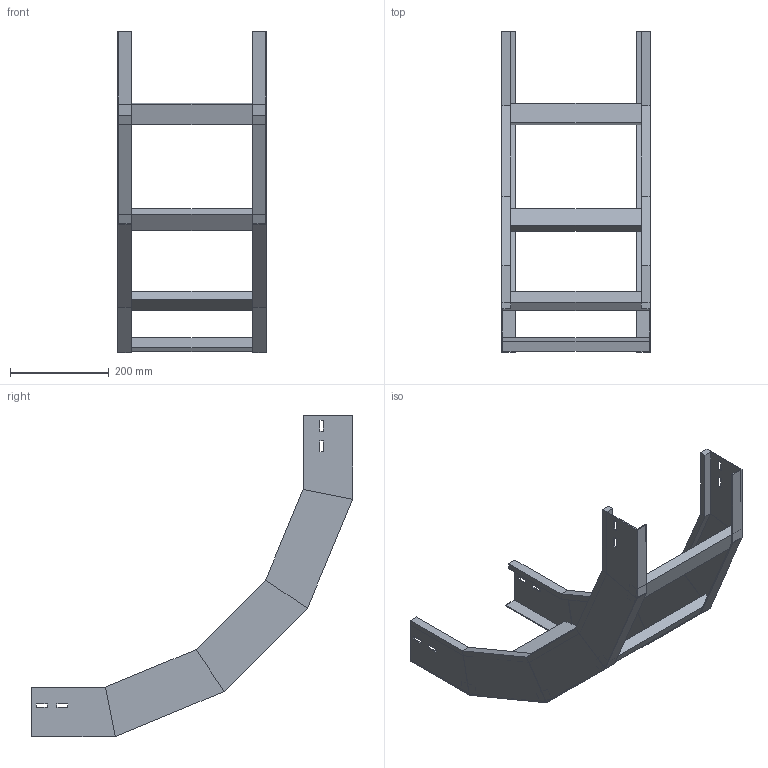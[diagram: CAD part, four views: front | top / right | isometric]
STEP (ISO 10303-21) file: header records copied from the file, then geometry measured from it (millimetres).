
FILE_DESCRIPTION (( 'STEP AP214' ), '1' );
FILE_NAME ('A2X30B5D300XX.step', '2025-03-20T10:19:34', ( '' ), ( '' ), 'SwSTEP 2.0', 'SolidWorks 2023', '' );
FILE_SCHEMA (( 'AUTOMOTIVE_DESIGN' ));
Length unit declared in the file: millimetre
Products named in the file (3): A2X30B5D300XX; LONGH.SALITA_90°_H100_R500; TRAVERSINO_300
Assembly tree (6 placements, depth 2):
  A2X30B5D300XX
    LONGH.SALITA_90°_H100_R500  x2
    TRAVERSINO_300  x4
Bounding box: 300 x 649.05 x 649.05 mm (x, y, z)
Volume: 1798445.4 mm3; surface area: 710383.1 mm2
Topology: 6 solids, 6 shells, 140 faces, 320 edges, 192 vertices
Faces by surface type: plane 140
Entity records: 1872 total; most frequent: CARTESIAN_POINT 309, ORIENTED_EDGE 296, DIRECTION 294, LINE 148, VECTOR 148, EDGE_CURVE 148, VERTEX_POINT 88, AXIS2_PLACEMENT_3D 73
